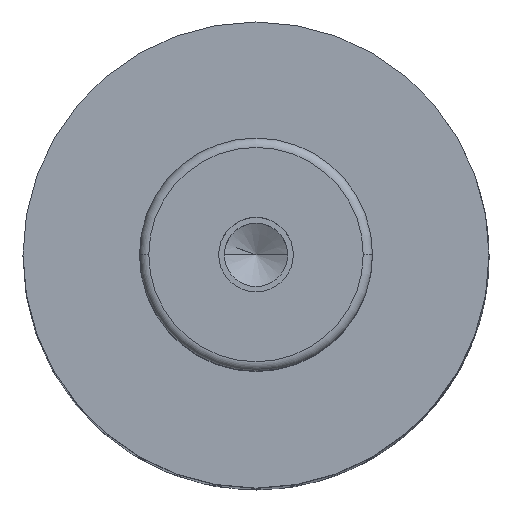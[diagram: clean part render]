
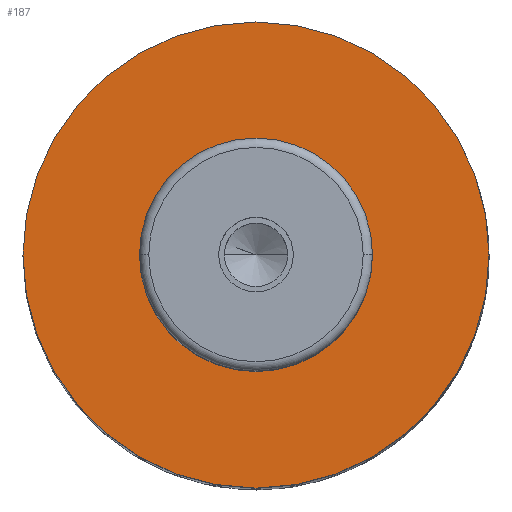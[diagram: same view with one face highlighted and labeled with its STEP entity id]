
A CAD part, top view. The second image highlights one B-rep face of the part: STEP entity #187.
In plain terms, the highlighted planar face has unit normal (0, 0, 1).
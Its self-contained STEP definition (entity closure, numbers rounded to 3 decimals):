
#109=PLANE('',#1002);
#132=FACE_BOUND('',#299,.T.);
#133=FACE_BOUND('',#300,.T.);
#187=ADVANCED_FACE('',(#132,#133),#109,.T.);
#299=EDGE_LOOP('',(#463,#464));
#300=EDGE_LOOP('',(#465,#466));
#367=CIRCLE('',#996,12.5);
#368=CIRCLE('',#998,12.5);
#369=CIRCLE('',#1000,25.);
#370=CIRCLE('',#1001,25.);
#463=ORIENTED_EDGE('',*,*,#766,.F.);
#464=ORIENTED_EDGE('',*,*,#767,.F.);
#465=ORIENTED_EDGE('',*,*,#765,.T.);
#466=ORIENTED_EDGE('',*,*,#763,.T.);
#676=VERTEX_POINT('',#1435);
#677=VERTEX_POINT('',#1437);
#678=VERTEX_POINT('',#1443);
#679=VERTEX_POINT('',#1444);
#763=EDGE_CURVE('',#677,#676,#367,.T.);
#765=EDGE_CURVE('',#676,#677,#368,.T.);
#766=EDGE_CURVE('',#678,#679,#369,.T.);
#767=EDGE_CURVE('',#679,#678,#370,.T.);
#996=AXIS2_PLACEMENT_3D('',#1436,#1150,#1151);
#998=AXIS2_PLACEMENT_3D('',#1440,#1155,#1156);
#1000=AXIS2_PLACEMENT_3D('',#1442,#1159,#1160);
#1001=AXIS2_PLACEMENT_3D('',#1445,#1161,#1162);
#1002=AXIS2_PLACEMENT_3D('',#1446,#1163,#1164);
#1150=DIRECTION('',(0.,0.,-1.));
#1151=DIRECTION('',(0.,1.,0.));
#1155=DIRECTION('',(0.,0.,-1.));
#1156=DIRECTION('',(0.,-1.,0.));
#1159=DIRECTION('',(0.,0.,-1.));
#1160=DIRECTION('',(0.,1.,0.));
#1161=DIRECTION('',(0.,0.,-1.));
#1162=DIRECTION('',(0.,-1.,0.));
#1163=DIRECTION('',(0.,0.,1.));
#1164=DIRECTION('',(0.,-1.,0.));
#1435=CARTESIAN_POINT('',(-12.5,0.,117.));
#1436=CARTESIAN_POINT('',(0.,0.,117.));
#1437=CARTESIAN_POINT('',(12.5,0.,117.));
#1440=CARTESIAN_POINT('',(0.,0.,117.));
#1442=CARTESIAN_POINT('',(0.,0.,117.));
#1443=CARTESIAN_POINT('',(25.,0.,117.));
#1444=CARTESIAN_POINT('',(-25.,0.,117.));
#1445=CARTESIAN_POINT('',(0.,0.,117.));
#1446=CARTESIAN_POINT('',(0.,0.,117.));
